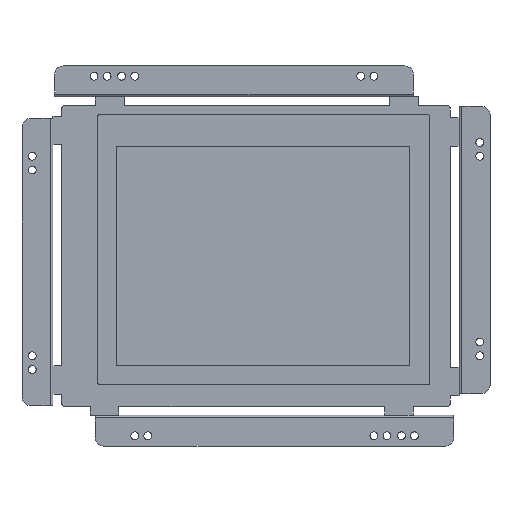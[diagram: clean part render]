
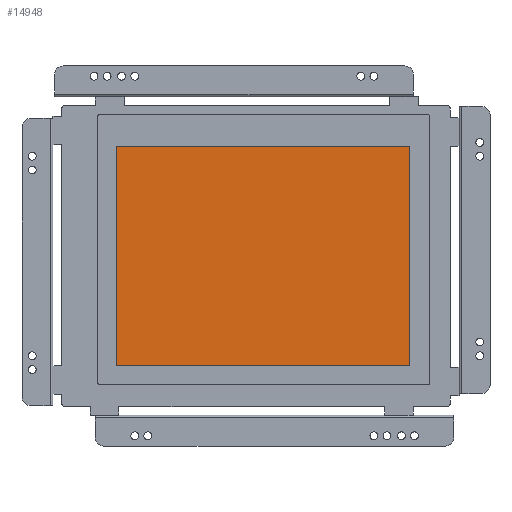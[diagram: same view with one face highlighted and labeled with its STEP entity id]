
A CAD part, top view. The second image highlights one B-rep face of the part: STEP entity #14948.
In plain terms, the highlighted planar face has unit normal (0, 0, 1).
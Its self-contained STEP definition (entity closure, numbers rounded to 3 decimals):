
#1871=DIRECTION('',(0.,-1.,0.));
#1872=VECTOR('',#1871,127.8);
#1873=CARTESIAN_POINT('',(-81.2,63.9,1.95));
#1874=LINE('',#1873,#1872);
#1875=DIRECTION('',(-1.,0.,0.));
#1876=VECTOR('',#1875,170.4);
#1877=CARTESIAN_POINT('',(89.2,63.9,1.95));
#1878=LINE('',#1877,#1876);
#1879=DIRECTION('',(0.,1.,0.));
#1880=VECTOR('',#1879,127.8);
#1881=CARTESIAN_POINT('',(89.2,-63.9,1.95));
#1882=LINE('',#1881,#1880);
#1883=DIRECTION('',(1.,0.,0.));
#1884=VECTOR('',#1883,170.4);
#1885=CARTESIAN_POINT('',(-81.2,-63.9,1.95));
#1886=LINE('',#1885,#1884);
#12692=CARTESIAN_POINT('',(-81.2,63.9,1.95));
#12693=CARTESIAN_POINT('',(-81.2,-63.9,1.95));
#12694=VERTEX_POINT('',#12692);
#12695=VERTEX_POINT('',#12693);
#12696=CARTESIAN_POINT('',(89.2,-63.9,1.95));
#12697=VERTEX_POINT('',#12696);
#12698=CARTESIAN_POINT('',(89.2,63.9,1.95));
#12699=VERTEX_POINT('',#12698);
#14937=CARTESIAN_POINT('',(0.,0.,1.95));
#14938=DIRECTION('',(0.,0.,1.));
#14939=DIRECTION('',(1.,0.,0.));
#14940=AXIS2_PLACEMENT_3D('',#14937,#14938,#14939);
#14941=PLANE('',#14940);
#14942=ORIENTED_EDGE('',*,*,#14889,.F.);
#14943=ORIENTED_EDGE('',*,*,#14904,.F.);
#14944=ORIENTED_EDGE('',*,*,#14918,.F.);
#14945=ORIENTED_EDGE('',*,*,#14931,.F.);
#14946=EDGE_LOOP('',(#14942,#14943,#14944,#14945));
#14947=FACE_OUTER_BOUND('',#14946,.F.);
#14948=ADVANCED_FACE('',(#14947),#14941,.T.);
#14889=EDGE_CURVE('',#12694,#12695,#1874,.T.);
#14904=EDGE_CURVE('',#12699,#12694,#1878,.T.);
#14918=EDGE_CURVE('',#12697,#12699,#1882,.T.);
#14931=EDGE_CURVE('',#12695,#12697,#1886,.T.);
